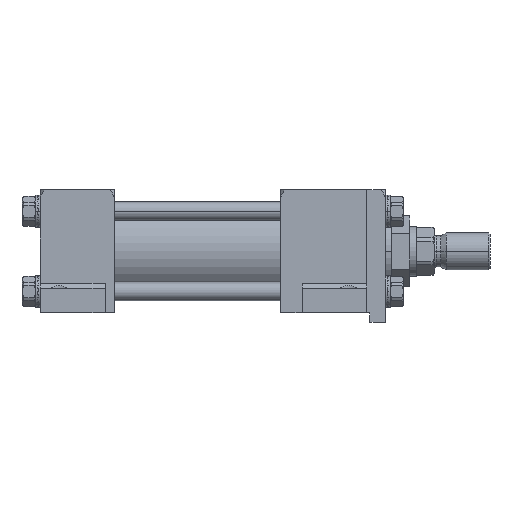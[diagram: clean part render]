
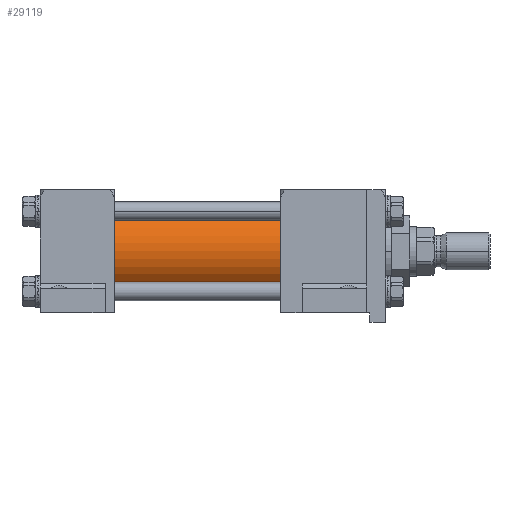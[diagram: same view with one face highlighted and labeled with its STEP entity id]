
A CAD part, front view. The second image highlights one B-rep face of the part: STEP entity #29119.
In plain terms, the highlighted cylindrical face has radius 23.812 mm (diameter 47.625 mm), a partial arc.
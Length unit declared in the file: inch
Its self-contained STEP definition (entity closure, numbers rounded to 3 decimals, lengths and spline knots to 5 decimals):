
#352 = CIRCLE ( 'NONE', #31262, 0.9375 ) ;
#2845 = LINE ( 'NONE', #18878, #23071 ) ;
#5649 = ORIENTED_EDGE ( 'NONE', *, *, #25201, .T. ) ;
#6706 = ORIENTED_EDGE ( 'NONE', *, *, #18327, .F. ) ;
#7815 = CYLINDRICAL_SURFACE ( 'NONE', #21709, 0.9375 ) ;
#8927 = AXIS2_PLACEMENT_3D ( 'NONE', #52685, #47652, #52991 ) ;
#11720 = DIRECTION ( 'NONE',  ( 1., 0., 0. ) ) ;
#13713 = EDGE_CURVE ( 'NONE', #51950, #51460, #2845, .T. ) ;
#18327 = EDGE_CURVE ( 'NONE', #47581, #39122, #33994, .T. ) ;
#18878 = CARTESIAN_POINT ( 'NONE',  ( -6.75, 0., -0.9375 ) ) ;
#19264 = CARTESIAN_POINT ( 'NONE',  ( -2.875, 0., 0.9375 ) ) ;
#21550 = DIRECTION ( 'NONE',  ( 0., 0., -1. ) ) ;
#21709 = AXIS2_PLACEMENT_3D ( 'NONE', #26867, #45782, #21550 ) ;
#22579 = CARTESIAN_POINT ( 'NONE',  ( -2.875, 0., 0. ) ) ;
#23071 = VECTOR ( 'NONE', #60772, 39.37008 ) ;
#23298 = CARTESIAN_POINT ( 'NONE',  ( -6.75, 0., -0.9375 ) ) ;
#25201 = EDGE_CURVE ( 'NONE', #47581, #51950, #39674, .T. ) ;
#26230 = FACE_OUTER_BOUND ( 'NONE', #47816, .T. ) ;
#26867 = CARTESIAN_POINT ( 'NONE',  ( -6.75, 0., 0. ) ) ;
#29119 = ADVANCED_FACE ( 'NONE', ( #26230 ), #7815, .T. ) ;
#31262 = AXIS2_PLACEMENT_3D ( 'NONE', #22579, #41521, #54385 ) ;
#33994 = LINE ( 'NONE', #50108, #40642 ) ;
#36724 = ORIENTED_EDGE ( 'NONE', *, *, #13713, .T. ) ;
#39122 = VERTEX_POINT ( 'NONE', #19264 ) ;
#39674 = CIRCLE ( 'NONE', #8927, 0.9375 ) ;
#40642 = VECTOR ( 'NONE', #11720, 39.37008 ) ;
#41521 = DIRECTION ( 'NONE',  ( 1., 0., 0. ) ) ;
#45782 = DIRECTION ( 'NONE',  ( 1., 0., 0. ) ) ;
#47581 = VERTEX_POINT ( 'NONE', #56176 ) ;
#47652 = DIRECTION ( 'NONE',  ( 1., 0., 0. ) ) ;
#47816 = EDGE_LOOP ( 'NONE', ( #6706, #5649, #36724, #50968 ) ) ;
#50108 = CARTESIAN_POINT ( 'NONE',  ( -6.75, 0., 0.9375 ) ) ;
#50968 = ORIENTED_EDGE ( 'NONE', *, *, #61153, .F. ) ;
#51460 = VERTEX_POINT ( 'NONE', #58676 ) ;
#51950 = VERTEX_POINT ( 'NONE', #23298 ) ;
#52685 = CARTESIAN_POINT ( 'NONE',  ( -6.75, 0., 0. ) ) ;
#52991 = DIRECTION ( 'NONE',  ( 0., 1., 0. ) ) ;
#54385 = DIRECTION ( 'NONE',  ( 0., 1., 0. ) ) ;
#56176 = CARTESIAN_POINT ( 'NONE',  ( -6.75, 0., 0.9375 ) ) ;
#58676 = CARTESIAN_POINT ( 'NONE',  ( -2.875, 0., -0.9375 ) ) ;
#60772 = DIRECTION ( 'NONE',  ( 1., 0., 0. ) ) ;
#61153 = EDGE_CURVE ( 'NONE', #39122, #51460, #352, .T. ) ;
